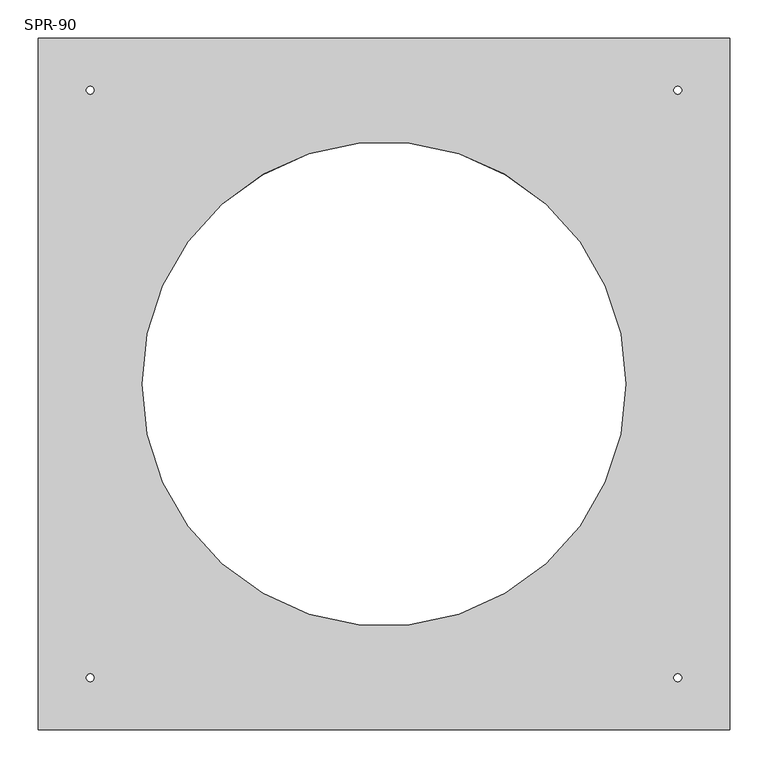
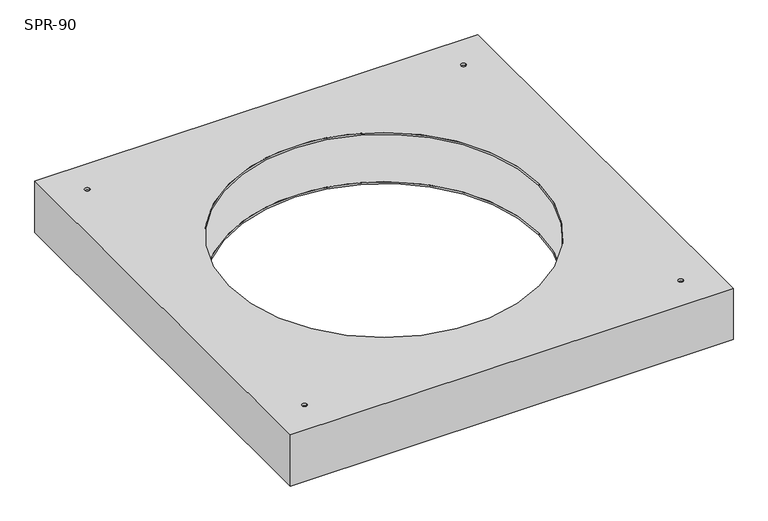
"""IFC4 building model written with IfcOpenShell, lengths in millimetres: damper geometry, СВ_КлапанИнерционный_КрышныйПрямоугольный_30-100_SPR : SPR-90."""

from ifc_helpers import new_model, si_unit, frame, origin, place, context, project, spatial, polyline, circle_curve, source, transform, mapped, element, save
from ifc_brep_helpers import plane_surface, revolved_surface, advanced_brep


def spr_90_b4306791(model_context):
    return source(origin(), model_context, "Body", "AdvancedBrep", [
        advanced_brep(
        [(450.0, 450.0, 0.0), (-450.0, 450.0, 0.0), (-450.0, -450.0, 0.0), (450.0, -450.0, 0.0), (-315.0, 0.0, 0.0), (315.0, 0.0, 0.0), (-377.5, -382.5, 0.0), (-387.5, -382.5, 0.0), (387.5, -382.5, 0.0), (377.5, -382.5, 0.0), (387.5, 382.5, 0.0), (377.5, 382.5, 0.0), (-377.5, 382.5, 0.0), (-387.5, 382.5, 0.0), (450.0, 450.0, -110.0), (450.0, -450.0, -110.0), (-450.0, -450.0, -110.0), (-450.0, 450.0, -110.0), (-315.0, 0.0, -110.0), (315.0, 0.0, -110.0), (-387.5, -382.5, -110.0), (-377.5, -382.5, -110.0), (377.5, -382.5, -110.0), (387.5, -382.5, -110.0), (377.5, 382.5, -110.0), (387.5, 382.5, -110.0), (-387.5, 382.5, -110.0), (-377.5, 382.5, -110.0), (-315.0, 0.0, -4.0), (315.0, 0.0, -4.0), (315.0, 0.0, -106.0), (-315.0, 0.0, -106.0), (445.0, 445.0, -4.0), (445.0, -445.0, -4.0), (-445.0, -445.0, -4.0), (-445.0, 445.0, -4.0), (-387.5, -382.5, -4.0), (-377.5, -382.5, -4.0), (377.5, -382.5, -4.0), (387.5, -382.5, -4.0), (377.5, 382.5, -4.0), (387.5, 382.5, -4.0), (-387.5, 382.5, -4.0), (-377.5, 382.5, -4.0), (445.0, 445.0, -106.0), (-445.0, 445.0, -106.0), (-445.0, -445.0, -106.0), (445.0, -445.0, -106.0), (-377.5, -382.5, -106.0), (-387.5, -382.5, -106.0), (387.5, -382.5, -106.0), (377.5, -382.5, -106.0), (387.5, 382.5, -106.0), (377.5, 382.5, -106.0), (-377.5, 382.5, -106.0), (-387.5, 382.5, -106.0)],
        [
            (0, 1),
            (1, 2),
            (2, 3),
            (3, 0),
            (4, 5, circle_curve(frame((0.0, 0.0, 0.0), z_axis=(0.0, 0.0, -1.0), x_axis=(1.0, 0.0, 0.0)), 315.0)),
            (5, 4, circle_curve(frame((0.0, 0.0, 0.0), z_axis=(0.0, 0.0, -1.0), x_axis=(1.0, 0.0, 0.0)), 315.0)),
            (6, 7, circle_curve(frame((-382.5, -382.5, 0.0), z_axis=(0.0, 0.0, -1.0), x_axis=(1.0, 0.0, 0.0)), 5.0)),
            (7, 6, circle_curve(frame((-382.5, -382.5, 0.0), z_axis=(0.0, 0.0, -1.0), x_axis=(1.0, 0.0, 0.0)), 5.0)),
            (8, 9, circle_curve(frame((382.5, -382.5, 0.0), z_axis=(0.0, 0.0, -1.0), x_axis=(1.0, 0.0, 0.0)), 5.0)),
            (9, 8, circle_curve(frame((382.5, -382.5, 0.0), z_axis=(0.0, 0.0, -1.0), x_axis=(1.0, 0.0, 0.0)), 5.0)),
            (10, 11, circle_curve(frame((382.5, 382.5, 0.0), z_axis=(0.0, 0.0, -1.0), x_axis=(1.0, 0.0, 0.0)), 5.0)),
            (11, 10, circle_curve(frame((382.5, 382.5, 0.0), z_axis=(0.0, 0.0, -1.0), x_axis=(1.0, 0.0, 0.0)), 5.0)),
            (12, 13, circle_curve(frame((-382.5, 382.5, 0.0), z_axis=(0.0, 0.0, -1.0), x_axis=(1.0, 0.0, 0.0)), 5.0)),
            (13, 12, circle_curve(frame((-382.5, 382.5, 0.0), z_axis=(0.0, 0.0, -1.0), x_axis=(1.0, 0.0, 0.0)), 5.0)),
            (14, 15),
            (15, 16),
            (16, 17),
            (17, 14),
            (18, 19, circle_curve(frame((0.0, 0.0, -110.0), z_axis=(0.0, 0.0, 1.0), x_axis=(1.0, 0.0, 0.0)), 315.0)),
            (19, 18, circle_curve(frame((0.0, 0.0, -110.0), z_axis=(0.0, 0.0, 1.0), x_axis=(1.0, 0.0, 0.0)), 315.0)),
            (20, 21, circle_curve(frame((-382.5, -382.5, -110.0), z_axis=(0.0, 0.0, 1.0), x_axis=(1.0, 0.0, 0.0)), 5.0)),
            (21, 20, circle_curve(frame((-382.5, -382.5, -110.0), z_axis=(0.0, 0.0, 1.0), x_axis=(1.0, 0.0, 0.0)), 5.0)),
            (22, 23, circle_curve(frame((382.5, -382.5, -110.0), z_axis=(0.0, 0.0, 1.0), x_axis=(1.0, 0.0, 0.0)), 5.0)),
            (23, 22, circle_curve(frame((382.5, -382.5, -110.0), z_axis=(0.0, 0.0, 1.0), x_axis=(1.0, 0.0, 0.0)), 5.0)),
            (24, 25, circle_curve(frame((382.5, 382.5, -110.0), z_axis=(0.0, 0.0, 1.0), x_axis=(1.0, 0.0, 0.0)), 5.0)),
            (25, 24, circle_curve(frame((382.5, 382.5, -110.0), z_axis=(0.0, 0.0, 1.0), x_axis=(1.0, 0.0, 0.0)), 5.0)),
            (26, 27, circle_curve(frame((-382.5, 382.5, -110.0), z_axis=(0.0, 0.0, 1.0), x_axis=(1.0, 0.0, 0.0)), 5.0)),
            (27, 26, circle_curve(frame((-382.5, 382.5, -110.0), z_axis=(0.0, 0.0, 1.0), x_axis=(1.0, 0.0, 0.0)), 5.0)),
            (0, 14),
            (17, 1),
            (16, 2),
            (15, 3),
            (4, 28),
            (28, 29, circle_curve(frame((0.0, 0.0, -4.0), z_axis=(0.0, 0.0, -1.0), x_axis=(1.0, 0.0, 0.0)), 315.0)),
            (29, 5),
            (19, 30),
            (30, 31, circle_curve(frame((0.0, 0.0, -106.0), z_axis=(0.0, 0.0, 1.0), x_axis=(1.0, 0.0, 0.0)), 315.0)),
            (31, 18),
            (29, 28, circle_curve(frame((0.0, 0.0, -4.0), z_axis=(0.0, 0.0, -1.0), x_axis=(1.0, 0.0, 0.0)), 315.0)),
            (31, 30, circle_curve(frame((0.0, 0.0, -106.0), z_axis=(0.0, 0.0, 1.0), x_axis=(1.0, 0.0, 0.0)), 315.0)),
            (32, 33),
            (33, 34),
            (34, 35),
            (35, 32),
            (36, 37, circle_curve(frame((-382.5, -382.5, -4.0), z_axis=(0.0, 0.0, 1.0), x_axis=(1.0, 0.0, 0.0)), 5.0)),
            (37, 36, circle_curve(frame((-382.5, -382.5, -4.0), z_axis=(0.0, 0.0, 1.0), x_axis=(1.0, 0.0, 0.0)), 5.0)),
            (38, 39, circle_curve(frame((382.5, -382.5, -4.0), z_axis=(0.0, 0.0, 1.0), x_axis=(1.0, 0.0, 0.0)), 5.0)),
            (39, 38, circle_curve(frame((382.5, -382.5, -4.0), z_axis=(0.0, 0.0, 1.0), x_axis=(1.0, 0.0, 0.0)), 5.0)),
            (40, 41, circle_curve(frame((382.5, 382.5, -4.0), z_axis=(0.0, 0.0, 1.0), x_axis=(1.0, 0.0, 0.0)), 5.0)),
            (41, 40, circle_curve(frame((382.5, 382.5, -4.0), z_axis=(0.0, 0.0, 1.0), x_axis=(1.0, 0.0, 0.0)), 5.0)),
            (42, 43, circle_curve(frame((-382.5, 382.5, -4.0), z_axis=(0.0, 0.0, 1.0), x_axis=(1.0, 0.0, 0.0)), 5.0)),
            (43, 42, circle_curve(frame((-382.5, 382.5, -4.0), z_axis=(0.0, 0.0, 1.0), x_axis=(1.0, 0.0, 0.0)), 5.0)),
            (44, 45),
            (45, 46),
            (46, 47),
            (47, 44),
            (48, 49, circle_curve(frame((-382.5, -382.5, -106.0), z_axis=(0.0, 0.0, -1.0), x_axis=(1.0, 0.0, 0.0)), 5.0)),
            (49, 48, circle_curve(frame((-382.5, -382.5, -106.0), z_axis=(0.0, 0.0, -1.0), x_axis=(1.0, 0.0, 0.0)), 5.0)),
            (50, 51, circle_curve(frame((382.5, -382.5, -106.0), z_axis=(0.0, 0.0, -1.0), x_axis=(1.0, 0.0, 0.0)), 5.0)),
            (51, 50, circle_curve(frame((382.5, -382.5, -106.0), z_axis=(0.0, 0.0, -1.0), x_axis=(1.0, 0.0, 0.0)), 5.0)),
            (52, 53, circle_curve(frame((382.5, 382.5, -106.0), z_axis=(0.0, 0.0, -1.0), x_axis=(1.0, 0.0, 0.0)), 5.0)),
            (53, 52, circle_curve(frame((382.5, 382.5, -106.0), z_axis=(0.0, 0.0, -1.0), x_axis=(1.0, 0.0, 0.0)), 5.0)),
            (54, 55, circle_curve(frame((-382.5, 382.5, -106.0), z_axis=(0.0, 0.0, -1.0), x_axis=(1.0, 0.0, 0.0)), 5.0)),
            (55, 54, circle_curve(frame((-382.5, 382.5, -106.0), z_axis=(0.0, 0.0, -1.0), x_axis=(1.0, 0.0, 0.0)), 5.0)),
            (35, 45),
            (44, 32),
            (34, 46),
            (33, 47),
            (36, 7),
            (6, 37),
            (20, 49),
            (48, 21),
            (38, 9),
            (8, 39),
            (22, 51),
            (50, 23),
            (40, 11),
            (10, 41),
            (24, 53),
            (52, 25),
            (42, 13),
            (12, 43),
            (26, 55),
            (54, 27),
        ],
        [
            plane_surface(frame((-450.0, 450.0, 0.0), z_axis=(0.0, 0.0, 1.0), x_axis=(-1.0, 0.0, 0.0))),
            plane_surface(frame((-450.0, 450.0, -110.0), z_axis=(0.0, 0.0, -1.0), x_axis=(1.0, 0.0, 0.0))),
            plane_surface(frame((450.0, 450.0, 0.0), z_axis=(0.0, 1.0, 0.0), x_axis=(0.0, 0.0, -1.0))),
            plane_surface(frame((-450.0, 450.0, 0.0), z_axis=(-1.0, 0.0, 0.0), x_axis=(0.0, 0.0, -1.0))),
            plane_surface(frame((-450.0, -450.0, 0.0), z_axis=(0.0, -1.0, 0.0), x_axis=(0.0, 0.0, -1.0))),
            plane_surface(frame((450.0, -450.0, 0.0), z_axis=(1.0, 0.0, 0.0), x_axis=(0.0, 0.0, -1.0))),
            revolved_surface(polyline([(315.0, 0.0, -4.0), (315.0, 0.0, 0.0)]), (0.0, 0.0, 0.0), (0.0, 0.0, -1.0)),
            revolved_surface(polyline([(315.0, 0.0, -110.0), (315.0, 0.0, -106.0)]), (0.0, 0.0, 0.0), (0.0, 0.0, -1.0)),
            plane_surface(frame((-445.0, 445.0, -4.0), z_axis=(0.0, 0.0, -1.0), x_axis=(-1.0, 0.0, 0.0))),
            plane_surface(frame((-445.0, 445.0, -106.0), z_axis=(0.0, 0.0, 1.0), x_axis=(1.0, 0.0, 0.0))),
            plane_surface(frame((445.0, 445.0, -4.0), z_axis=(0.0, -1.0, 0.0), x_axis=(0.0, 0.0, -1.0))),
            plane_surface(frame((-445.0, 445.0, -4.0), z_axis=(1.0, 0.0, 0.0), x_axis=(0.0, 0.0, -1.0))),
            plane_surface(frame((-445.0, -445.0, -4.0), z_axis=(0.0, 1.0, 0.0), x_axis=(0.0, 0.0, -1.0))),
            plane_surface(frame((445.0, -445.0, -4.0), z_axis=(-1.0, 0.0, 0.0), x_axis=(0.0, 0.0, -1.0))),
            revolved_surface(polyline([(-377.5, -382.5, 0.0), (-377.5, -382.5, -4.0)]), (-382.5, -382.5, -110.0), (0.0, 0.0, 1.0)),
            revolved_surface(polyline([(-377.5, -382.5, -106.0), (-377.5, -382.5, -110.0)]), (-382.5, -382.5, -110.0), (0.0, 0.0, 1.0)),
            revolved_surface(polyline([(387.5, -382.5, 0.0), (387.5, -382.5, -4.0)]), (382.5, -382.5, 0.0), (0.0, 0.0, 1.0)),
            revolved_surface(polyline([(387.5, -382.5, -106.0), (387.5, -382.5, -110.0)]), (382.5, -382.5, 0.0), (0.0, 0.0, 1.0)),
            revolved_surface(polyline([(387.5, 382.5, 0.0), (387.5, 382.5, -4.0)]), (382.5, 382.5, 0.0), (0.0, 0.0, 1.0)),
            revolved_surface(polyline([(387.5, 382.5, -106.0), (387.5, 382.5, -110.0)]), (382.5, 382.5, 0.0), (0.0, 0.0, 1.0)),
            revolved_surface(polyline([(-377.5, 382.5, 0.0), (-377.5, 382.5, -4.0)]), (-382.5, 382.5, 0.0), (0.0, 0.0, 1.0)),
            revolved_surface(polyline([(-377.5, 382.5, -106.0), (-377.5, 382.5, -110.0)]), (-382.5, 382.5, 0.0), (0.0, 0.0, 1.0)),
        ],
        [
            (0, [[1, 2, 3, 4], [5, 6], [7, 8], [9, 10], [11, 12], [13, 14]]),
            (1, [[15, 16, 17, 18], [19, 20], [21, 22], [23, 24], [25, 26], [27, 28]]),
            (2, [[-1, 29, -18, 30]]),
            (3, [[-2, -30, -17, 31]]),
            (4, [[-3, -31, -16, 32]]),
            (5, [[-4, -32, -15, -29]]),
            (6, [[-5, 33, 34, 35]]),
            (7, [[-20, 36, 37, 38]]),
            (6, [[-6, -35, 39, -33]]),
            (7, [[-19, -38, 40, -36]]),
            (8, [[41, 42, 43, 44], [-34, -39], [45, 46], [47, 48], [49, 50], [51, 52]]),
            (9, [[53, 54, 55, 56], [-37, -40], [57, 58], [59, 60], [61, 62], [63, 64]]),
            (10, [[-44, 65, -53, 66]]),
            (11, [[-43, 67, -54, -65]]),
            (12, [[-42, 68, -55, -67]]),
            (13, [[-41, -66, -56, -68]]),
            (14, [[69, -7, 70, -45]]),
            (15, [[71, -57, 72, -21]]),
            (14, [[-69, -46, -70, -8]]),
            (15, [[-71, -22, -72, -58]]),
            (16, [[73, -9, 74, -47]]),
            (17, [[75, -59, 76, -23]]),
            (16, [[-73, -48, -74, -10]]),
            (17, [[-75, -24, -76, -60]]),
            (18, [[77, -11, 78, -49]]),
            (19, [[79, -61, 80, -25]]),
            (18, [[-77, -50, -78, -12]]),
            (19, [[-79, -26, -80, -62]]),
            (20, [[81, -13, 82, -51]]),
            (21, [[83, -63, 84, -27]]),
            (20, [[-81, -52, -82, -14]]),
            (21, [[-83, -28, -84, -64]]),
        ],
    ),
    ])


if __name__ == "__main__":
    model = new_model("IFC4")
    model_context = context("Model", 3, world=origin())
    ifc_project = project(units=[si_unit("LENGTHUNIT", "METRE", prefix="MILLI")], contexts=[model_context])
    site = spatial("IfcSite", under=ifc_project)
    building = spatial("IfcBuilding", under=site)
    placement = place(None, origin())
    spr_90_shape = spr_90_b4306791(model_context)
    element("IfcDamper", 1, ObjectType="СВ_КлапанИнерционный_КрышныйПрямоугольный_30-100_SPR : SPR-90", at=placement, inside=building, context=model_context, shape_type="MappedRepresentation", body=[
        mapped(spr_90_shape, transform((0.0, 0.0, 0.0), x_axis=(1.0, 0.0, 0.0), y_axis=(0.0, 1.0, 0.0), z_axis=(0.0, 0.0, 1.0))),
    ])
    save(model, "model.ifc")
